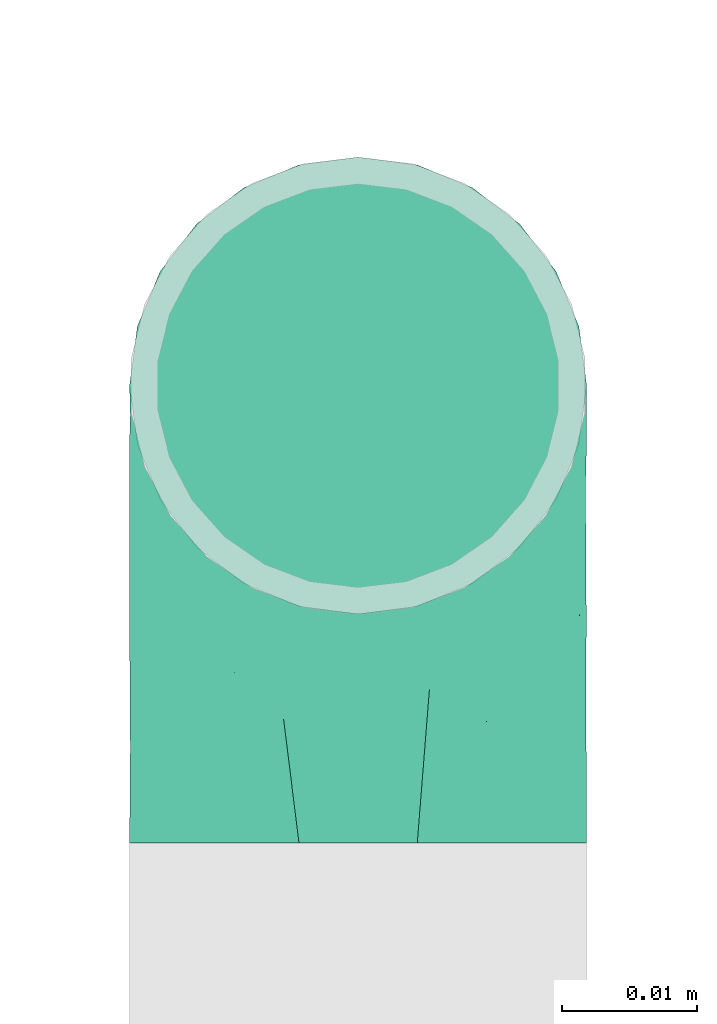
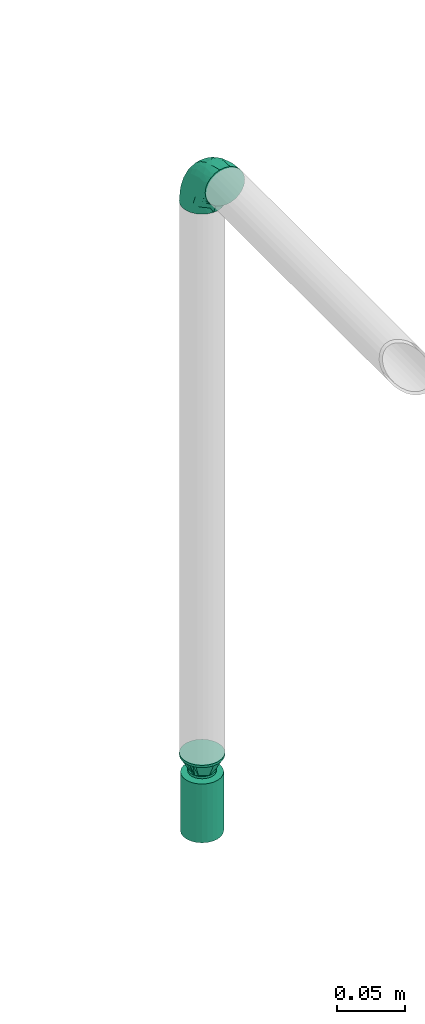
# One storey, part 56 of 95: 2 flow fittings, 1 flow terminal.
"""IFC2X3 building model written with IfcOpenShell, lengths in millimetres."""

from ifc_helpers import new_model, entity, si_unit, converted_unit, derived_unit, direction, frame, origin_with_axes, place, context, subcontext, project, spatial, open_shell, surface_model, source, transform, mapped, type_object, element, save


model = new_model("IFC2X3")

# Units and contexts
model_context = context("Model", 3, precision=0.01, world=frame((0.0, 4.29681676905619e-09, 0.0)), true_north=direction((4.01073788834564e-13, 1.0)))
plan_context = context("Plan", 3, precision=0.01, world=frame((0.0, 4.29681676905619e-09, 0.0)), true_north=direction((4.01073788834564e-13, 1.0)))
body_context = subcontext(model_context, "Body", "Model", "MODEL_VIEW")
ifc_project = project(units=[converted_unit("PLANEANGLEUNIT", "DEGREE", entity("IfcPositiveLengthMeasure", 0.0174532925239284), si_unit("PLANEANGLEUNIT", "RADIAN"), dimensions=[0, 0, 0, 0, 0, 0, 0]), si_unit("AREAUNIT", "SQUARE_METRE"), si_unit("LENGTHUNIT", "METRE", prefix="MILLI"), si_unit("MASSUNIT", "GRAM", prefix="KILO"), si_unit("POWERUNIT", "WATT"), si_unit("PRESSUREUNIT", "PASCAL"), si_unit("FORCEUNIT", "NEWTON", prefix="KILO"), si_unit("ELECTRICVOLTAGEUNIT", "VOLT"), si_unit("ELECTRICCURRENTUNIT", "AMPERE"), si_unit("THERMODYNAMICTEMPERATUREUNIT", "DEGREE_CELSIUS"), si_unit("TIMEUNIT", "SECOND"), si_unit("VOLUMEUNIT", "CUBIC_METRE"), derived_unit("LINEARVELOCITYUNIT", [(si_unit("LENGTHUNIT", "METRE"), 1), (si_unit("TIMEUNIT", "SECOND"), -1)]), derived_unit("VOLUMETRICFLOWRATEUNIT", [(si_unit("VOLUMEUNIT", "CUBIC_METRE"), 1), (si_unit("TIMEUNIT", "SECOND"), -1)]), derived_unit("THERMALTRANSMITTANCEUNIT", [(si_unit("POWERUNIT", "WATT"), 1), (si_unit("THERMODYNAMICTEMPERATUREUNIT", "KELVIN"), -1), (si_unit("AREAUNIT", "SQUARE_METRE"), -1)]), derived_unit("SOUNDPRESSUREUNIT", [(si_unit("PRESSUREUNIT", "PASCAL"), 1)])], contexts=[model_context, plan_context])

# Site, building, storey
site_placement = place(None, frame((0.0, -4.29681676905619e-09, 0.0), z_axis=(0.0, 0.0, 1.0), x_axis=(1.0, 0.0, 0.0)))
site = spatial("IfcSite", under=ifc_project, at=site_placement, CompositionType="ELEMENT")
building_placement = place(site_placement, frame((0.0, 4.29681676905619e-09, 0.0), z_axis=(0.0, 0.0, 1.0), x_axis=(1.0, 0.0, 0.0)))
building = spatial("IfcBuilding", under=site, at=building_placement, Name="mc-building", CompositionType="ELEMENT")
storey_placement = place(building_placement, frame((0.0, 0.0, 210900.0), z_axis=(0.0, 0.0, 1.0), x_axis=(1.0, 0.0, 0.0)))
storey = spatial("IfcBuildingStorey", under=building, at=storey_placement, Name="Nivå F", CompositionType="ELEMENT", Elevation=210900.0)

# Flow fittings
pipe_fitting_type_1 = type_object("IfcPipeFittingType", Name="magi_pipe_fe_reducer_centric_short_NOR", PredefinedType="TRANSITION")
shared_shape_1 = source(origin_with_axes(), body_context, "Body", "SurfaceModel", [
    surface_model("IfcShellBasedSurfaceModel", [(-2.0, -7.56604, -7.56604), (-2.0, -10.33541, -2.76936), (-2.0, -5.35, -9.26647), (-2.0, 5.35, -9.26647), (-2.0, 10.33541, -2.76936), (-2.0, 7.56604, -7.56604), (12.4, 11.9501, 11.9501), (12.4, 0.0, 16.9), (12.4, 11.9501, -11.9501), (12.4, 16.9, 0.0), (0.0, -10.7, 0.0), (0.0, -5.35, 9.26647), (0.0, -5.35, -9.26647), (0.0, 10.7, 0.0), (12.4, 15.66253, -2.98753), (12.4, 8.96258, -13.18758), (0.0, 6.6875, -6.94985), (12.4, -15.66253, -2.98753), (12.4, -16.9, 0.0), (12.4, 5.97505, -14.42505), (0.0, 5.35, -9.26647), (12.4, 14.42505, -5.97505), (0.0, 8.025, -4.63324), (0.0, 9.3625, -2.31662), (0.0, -9.3625, -2.31662), (0.0, -8.025, -4.63324), (12.4, -14.42505, -5.97505), (12.4, 13.18758, -8.96258), (12.4, -13.18758, -8.96258), (12.4, -11.9501, -11.9501), (0.0, -6.6875, -6.94985), (12.4, -8.96258, -13.18758), (12.4, -5.97505, -14.42505), (12.4, -15.66253, 2.98753), (12.4, -8.96258, 13.18758), (0.0, -6.6875, 6.94985), (12.4, -11.9501, 11.9501), (12.4, 15.66253, 2.98753), (12.4, -5.97505, 14.42505), (12.4, -14.42505, 5.97505), (0.0, -8.025, 4.63324), (0.0, -9.3625, 2.31662), (0.0, 9.3625, 2.31662), (0.0, 8.025, 4.63324), (12.4, 14.42505, 5.97505), (12.4, -13.18758, 8.96258), (12.4, 13.18758, 8.96258), (0.0, 6.6875, 6.94985), (12.4, 8.96258, 13.18758), (0.0, 5.35, 9.26647), (12.4, 5.97505, 14.42505), (14.4, 4.37404, -16.32415), (14.4, 8.45, -14.63583), (14.4, 11.9501, -11.9501), (14.4, -8.45, -14.63583), (14.4, 16.32415, -4.37404), (14.4, 16.32415, 4.37404), (14.4, 14.63583, -8.45), (14.4, 0.0, -16.9), (14.4, -4.37404, -16.32415), (14.4, -11.9501, -11.9501), (14.4, -16.32415, -4.37404), (14.4, -14.63583, -8.45), (14.4, -16.32415, 4.37404), (14.4, 16.9, 0.0), (14.4, 14.63583, 8.45), (14.4, 11.9501, 11.9501), (14.4, 4.37404, 16.32415), (14.4, 8.45, 14.63583), (14.4, 0.0, 16.9), (14.4, -14.63583, 8.45), (14.4, -16.9, 0.0), (14.4, -8.45, 14.63583), (14.4, -11.9501, 11.9501), (14.4, -4.37404, 16.32415), (12.4, 4.37404, 16.32415), (12.4, -14.63583, 8.45), (12.4, 16.32415, 4.37404), (12.4, 8.45, 14.63583), (12.4, 14.63583, 8.45), (12.4, -8.45, 14.63583), (12.4, -4.37404, 16.32415), (12.4, -16.32415, 4.37404), (12.4, -16.32415, -4.37404), (12.4, -8.45, -14.63583), (12.4, 16.32415, -4.37404), (12.4, 14.63583, -8.45), (12.4, 8.45, -14.63583), (12.4, 4.37404, -16.32415), (12.4, 0.0, -16.9), (12.4, -14.63583, -8.45), (12.4, -4.37404, -16.32415), (-2.0, 2.76936, 10.33541), (-2.0, 0.0, 10.7), (-2.0, 5.35, 9.26647), (-2.0, 7.56604, 7.56604), (-2.0, 9.26647, 5.35), (-2.0, 10.33541, 2.76936), (-2.0, -10.33541, 2.76936), (-2.0, -2.76936, 10.33541), (-2.0, -7.56604, 7.56604), (-2.0, -5.35, 9.26647), (-2.0, -9.26647, 5.35), (-2.0, -10.7, 0.0), (-2.0, 9.26647, -5.35), (-2.0, 2.76936, -10.33541), (-2.0, -9.26647, -5.35), (-2.0, 0.0, -10.7), (-2.0, -2.76936, -10.33541), (-2.0, 10.7, 0.0), (0.0, 0.0, -10.7), (0.0, 2.76936, -10.33541), (0.0, 10.33541, -2.76936), (0.0, 7.56604, -7.56604), (0.0, -10.33541, -2.76936), (0.0, 9.26647, -5.35), (0.0, 0.0, 10.7), (0.0, -2.76936, -10.33541), (0.0, -7.56604, -7.56604), (0.0, -9.26647, -5.35), (0.0, 10.33541, 2.76936), (0.0, 9.26647, 5.35), (0.0, 7.56604, 7.56604), (0.0, 2.76936, 10.33541), (0.0, -7.56604, 7.56604), (0.0, -10.33541, 2.76936), (0.0, -9.26647, 5.35), (0.0, -2.76936, 10.33541), (0.0, 2.675, -9.26647), (0.0, -2.675, -9.26647), (12.4, 2.98753, -15.66253), (0.0, 0.0, -9.26647), (12.4, -2.98753, -15.66253), (0.0, -2.675, 9.26647), (0.0, 2.675, 9.26647), (12.4, -2.98753, 15.66253), (0.0, 0.0, 9.26647), (12.4, 2.98753, 15.66253)], [open_shell([[[0, 1, 2]], [[3, 4, 5]], [[6, 7, 8]], [[8, 9, 6]], [[10, 11, 12]], [[13, 9, 14]], [[15, 16, 8]], [[17, 18, 10]], [[15, 19, 20]], [[21, 22, 23]], [[24, 25, 26]], [[22, 21, 27]], [[28, 26, 25]], [[29, 30, 31]], [[12, 32, 31]], [[10, 18, 33]], [[34, 35, 36]], [[37, 9, 13]], [[34, 38, 11]], [[39, 40, 41]], [[42, 43, 44]], [[40, 39, 45]], [[46, 44, 43]], [[6, 47, 48]], [[49, 50, 48]], [[51, 52, 53]], [[54, 51, 53]], [[53, 55, 56]], [[55, 53, 57]], [[53, 56, 54]], [[58, 54, 59]], [[58, 51, 54]], [[60, 61, 62]], [[61, 60, 54]], [[54, 63, 61]], [[56, 55, 64]], [[56, 65, 66]], [[56, 66, 67]], [[67, 63, 54]], [[67, 66, 68]], [[63, 67, 69]], [[69, 70, 63]], [[71, 61, 63]], [[70, 72, 73]], [[70, 69, 72]], [[72, 69, 74]], [[54, 56, 67]], [[75, 76, 7]], [[77, 75, 78]], [[6, 79, 77]], [[6, 77, 78]], [[76, 75, 77]], [[80, 76, 36]], [[80, 81, 7]], [[7, 76, 80]], [[82, 76, 77]], [[82, 83, 18]], [[82, 77, 84]], [[77, 85, 8]], [[8, 85, 86]], [[8, 87, 88]], [[84, 77, 8]], [[88, 89, 8]], [[83, 29, 90]], [[29, 83, 84]], [[84, 89, 91]], [[83, 82, 84]], [[8, 89, 84]], [[85, 77, 9]], [[83, 61, 18]], [[90, 62, 83]], [[54, 29, 84]], [[90, 29, 60]], [[59, 84, 91]], [[83, 62, 61]], [[61, 71, 18]], [[59, 54, 84]], [[60, 29, 54]], [[60, 62, 90]], [[58, 59, 91]], [[91, 89, 58]], [[88, 51, 89]], [[87, 52, 88]], [[57, 8, 86]], [[87, 8, 53]], [[55, 86, 85]], [[87, 53, 52]], [[52, 51, 88]], [[64, 55, 85]], [[57, 86, 55]], [[57, 53, 8]], [[9, 64, 85]], [[89, 51, 58]], [[77, 56, 9]], [[79, 65, 77]], [[68, 6, 78]], [[79, 6, 66]], [[67, 78, 75]], [[77, 65, 56]], [[56, 64, 9]], [[67, 68, 78]], [[66, 6, 68]], [[66, 65, 79]], [[69, 67, 75]], [[75, 7, 69]], [[81, 74, 7]], [[80, 72, 81]], [[70, 36, 76]], [[80, 36, 73]], [[63, 76, 82]], [[80, 73, 72]], [[72, 74, 81]], [[71, 63, 82]], [[70, 76, 63]], [[70, 73, 36]], [[18, 71, 82]], [[7, 74, 69]], [[92, 1, 93]], [[94, 1, 92]], [[95, 96, 97]], [[95, 97, 94]], [[98, 93, 1]], [[99, 100, 101]], [[99, 93, 100]], [[100, 98, 102]], [[93, 98, 100]], [[98, 1, 103]], [[94, 97, 1]], [[1, 97, 4]], [[5, 4, 104]], [[4, 3, 1]], [[105, 1, 3]], [[1, 0, 106]], [[2, 107, 108]], [[2, 1, 105]], [[105, 107, 2]], [[4, 97, 109]], [[20, 110, 111]], [[112, 20, 113]], [[114, 20, 112]], [[112, 113, 115]], [[116, 114, 112]], [[110, 12, 117]], [[110, 20, 12]], [[118, 114, 119]], [[114, 118, 12]], [[20, 114, 12]], [[112, 13, 120]], [[120, 121, 122]], [[120, 122, 123]], [[116, 112, 123]], [[123, 122, 49]], [[116, 124, 114]], [[125, 124, 126]], [[10, 114, 125]], [[124, 127, 11]], [[125, 114, 124]], [[127, 124, 116]], [[123, 112, 120]], [[1, 114, 103]], [[106, 119, 1]], [[12, 0, 2]], [[106, 0, 118]], [[117, 2, 108]], [[1, 119, 114]], [[114, 10, 103]], [[117, 12, 2]], [[118, 0, 12]], [[118, 119, 106]], [[110, 117, 108]], [[108, 107, 110]], [[105, 111, 107]], [[3, 20, 105]], [[115, 5, 104]], [[3, 5, 113]], [[112, 104, 4]], [[3, 113, 20]], [[20, 111, 105]], [[13, 112, 4]], [[115, 104, 112]], [[115, 113, 5]], [[109, 13, 4]], [[107, 111, 110]], [[97, 120, 109]], [[96, 121, 97]], [[49, 95, 94]], [[96, 95, 122]], [[123, 94, 92]], [[97, 121, 120]], [[120, 13, 109]], [[123, 49, 94]], [[122, 95, 49]], [[122, 121, 96]], [[116, 123, 92]], [[92, 93, 116]], [[99, 127, 93]], [[101, 11, 99]], [[126, 100, 102]], [[101, 100, 124]], [[125, 102, 98]], [[101, 124, 11]], [[11, 127, 99]], [[10, 125, 98]], [[126, 102, 125]], [[126, 124, 100]], [[103, 10, 98]], [[93, 127, 116]], [[18, 7, 36]], [[18, 29, 8]], [[89, 8, 29]], [[18, 8, 7]], [[13, 11, 49]], [[13, 20, 12]], [[13, 12, 11]], [[24, 26, 17]], [[10, 24, 17]], [[16, 15, 20]], [[30, 12, 31]], [[23, 14, 21]], [[19, 128, 20]], [[27, 8, 16]], [[32, 12, 129]], [[30, 28, 25]], [[130, 131, 128]], [[129, 132, 32]], [[16, 22, 27]], [[13, 14, 23]], [[128, 19, 130]], [[130, 89, 131]], [[131, 132, 129]], [[89, 132, 131]], [[28, 30, 29]], [[42, 44, 37]], [[13, 42, 37]], [[35, 34, 11]], [[47, 49, 48]], [[41, 33, 39]], [[38, 133, 11]], [[45, 36, 35]], [[50, 49, 134]], [[47, 46, 43]], [[135, 136, 133]], [[134, 137, 50]], [[35, 40, 45]], [[10, 33, 41]], [[133, 38, 135]], [[135, 7, 136]], [[136, 137, 134]], [[7, 137, 136]], [[46, 47, 6]]])]),
])
flow_fitting_1_placement = place(storey_placement, frame((533498.68266, 447207.85, 3762.948), z_axis=(-1.0, 0.0, 0.0), x_axis=(0.0, 0.0, 1.0)))
element("IfcFlowFitting", 1, at=flow_fitting_1_placement, inside=storey, type_object=pipe_fitting_type_1, Name="magi_pipe_fe_reducer_centric_short_NOR", context=body_context, shape_type="MappedRepresentation", body=[
    mapped(shared_shape_1, transform((0.0, 0.0, 0.0), scale=1.0)),
])
pipe_fitting_type_2 = type_object("IfcPipeFittingType", Name="magi_pipe_fe_elbow_short_001", PredefinedType="BEND")
shared_shape_2 = source(origin_with_axes(), body_context, "Body", "SurfaceModel", [
    surface_model("IfcShellBasedSurfaceModel", [(-33.8, 8.45, -14.63583), (-33.8, 4.37404, -16.32415), (-33.8, 11.9501, -11.9501), (-33.8, -11.9501, -11.9501), (-33.8, -14.63583, -8.45), (-33.8, -8.45, -14.63583), (-33.8, 0.0, -16.9), (-33.8, -4.37404, -16.32415), (-33.8, -4.37404, 16.32415), (-33.8, 0.0, 16.9), (-33.8, -8.45, 14.63583), (-33.8, 16.32415, -4.37404), (-33.8, 14.63583, -8.45), (-33.8, -16.32415, -4.37404), (-33.8, -16.9, 0.0), (-33.8, -16.32415, 4.37404), (-33.8, 11.9501, 11.9501), (-33.8, 14.63583, 8.45), (-33.8, 16.32415, 4.37404), (-33.8, 4.37404, 16.32415), (-33.8, 8.45, 14.63583), (-33.8, -14.63583, 8.45), (-33.8, -11.9501, 11.9501), (-33.8, 16.9, 0.0), (-11.9501, 33.8, -11.9501), (0.0, 33.8, -16.9), (-4.37404, 33.8, -16.32415), (-8.45, 33.8, -14.63583), (-14.63583, 33.8, -8.45), (-16.32415, 33.8, -4.37404), (14.63583, 33.8, -8.45), (8.45, 33.8, 14.63583), (16.32415, 33.8, -4.37404), (8.45, 33.8, -14.63583), (11.9501, 33.8, -11.9501), (4.37404, 33.8, -16.32415), (16.32415, 33.8, 4.37404), (16.9, 33.8, 0.0), (-11.9501, 33.8, 11.9501), (-16.32415, 33.8, 4.37404), (-14.63583, 33.8, 8.45), (-8.45, 33.8, 14.63583), (-4.37404, 33.8, 16.32415), (11.9501, 33.8, 11.9501), (14.63583, 33.8, 8.45), (0.0, 33.8, 16.9), (4.37404, 33.8, 16.32415), (-16.9, 33.8, 0.0), (-24.79389, -13.12945, 9.48721), (-22.19287, -9.75018, 12.59315), (-24.09897, -14.97035, 0.0), (-14.93934, -10.76256, 8.5297), (-22.46095, -14.75051, 5.27077), (14.75051, 22.46094, 5.27077), (11.9251, 13.23888, 4.33236), (13.04069, 14.39795, 0.0), (7.71387, 13.68847, 11.55891), (9.75018, 22.19287, 12.59315), (4.10169, 13.0571, 14.04018), (-24.84007, -6.39063, 15.2048), (-25.81779, -2.23879, 16.61097), (-23.66549, 2.59054, 16.87119), (-26.50418, 14.06512, 11.08152), (-24.21253, 17.66365, 7.72657), (-29.58514, 15.86957, 7.00283), (-6.17382, -7.5455, 0.0), (-13.23888, -11.9251, 4.33236), (-14.39795, -13.04069, 0.0), (-17.81434, 18.87373, 11.97104), (-6.30846, 29.15138, 15.82987), (-2.31622, 25.28002, 16.85849), (-29.23923, 10.23435, 13.77053), (-1.45439, -2.85688, 7.61475), (-0.28326, 0.34872, 10.09509), (-5.74484, -4.04709, 10.4122), (-4.41137, 11.31918, 16.59407), (-8.39727, 3.10034, 15.7812), (-1.72649, 9.1306, 15.53089), (-17.39909, 24.75344, 7.64977), (-26.19233, 20.0512, 0.0), (-28.14518, 17.29657, 4.25857), (-26.05147, 6.6281, 15.96447), (-5.87354, 16.61944, 16.86968), (-12.51807, 12.51807, 16.48937), (-10.06312, 7.38516, 16.81295), (-3.01882, 3.01882, 13.81718), (-13.0571, -4.10169, 14.04018), (-16.82553, -0.15166, 16.38038), (10.76256, 14.93934, 8.5297), (13.12945, 24.79389, 9.48721), (6.39063, 24.84007, 15.2048), (2.23879, 25.81779, 16.61097), (-13.68847, -7.71387, 11.55891), (14.97035, 24.09897, 0.0), (-7.30894, 22.89991, 16.09489), (-10.67958, 26.17414, 14.008), (-12.78295, 18.26924, 15.06066), (-13.88562, 22.45231, 12.93244), (-18.04944, 15.16501, 14.04434), (-23.11658, 20.08178, 4.02986), (-21.84989, 21.84989, 0.0), (-18.55817, 25.48277, 3.93065), (-13.95142, 26.94732, 11.03289), (-18.57098, 7.23906, 16.59756), (-16.58335, 4.14122, 16.89279), (-17.96666, 11.46709, 15.63151), (-9.84453, 17.54304, 16.18938), (0.15166, 16.82553, 16.38038), (-23.27207, 11.47201, 14.23154), (3.84842, 5.86994, 10.70473), (-8.0212, -7.54413, 7.93275), (1.00345, -2.19508, 4.57414), (5.13203, 3.01004, 5.90201), (5.24161, 1.7543, 2.53265), (8.70457, 7.04947, 3.99182), (-20.0512, 26.19233, 0.0), (8.4852, 8.76699, 7.09296), (-4.55488, -6.72064, 4.90681), (2.05031, -2.05031, 0.0), (7.5455, 6.17382, 0.0), (-26.75399, 2.1369, -16.845), (-14.61995, 24.73803, -11.27736), (-28.45274, -13.45335, -9.81895), (-26.00469, 6.63555, -15.96645), (-23.06726, 20.04573, -4.26202), (-13.80647, -4.26506, -14.17873), (-14.67501, -0.21081, -16.07388), (-6.7902, -0.2828, -13.8478), (-24.53586, 11.08096, -14.13417), (-26.72048, 14.00837, -11.05776), (10.0967, 24.44989, -12.75976), (5.83237, 21.40218, -15.03047), (6.66249, 28.54238, -15.38093), (-20.38182, 15.48705, -12.74596), (12.53268, 21.23441, -9.15363), (12.54494, 15.67504, -5.54878), (9.7522, 12.89279, -8.66343), (-15.65186, 19.64213, -13.01327), (-12.03528, 20.66498, -14.67665), (-15.61907, 15.61906, -14.83879), (-25.56551, -15.26206, 0.0), (-24.65452, -15.12934, -5.50955), (13.45335, 28.45274, -9.81895), (15.12934, 24.65452, -5.50955), (-7.35442, -8.31014, -5.65563), (-15.67504, -12.54494, -5.54878), (-24.44989, -10.0967, -12.75976), (0.16522, 0.41303, -9.71728), (-5.70658, -5.33066, -8.89288), (-5.13869, -2.37198, -11.53565), (-21.23441, -12.53268, -9.15363), (0.71146, 7.93863, -14.09382), (0.21081, 14.67501, -16.07388), (3.49291, 14.42772, -14.76381), (-24.89911, -2.13088, -16.591), (-28.54238, -6.66249, -15.38093), (-18.44386, -7.71663, -13.26957), (2.13088, 24.89911, -16.591), (-28.64342, 17.44413, -2.89318), (1.70017, -1.28722, -5.09504), (-16.57067, 26.81947, -7.36596), (-17.69055, 27.4263, -3.76405), (-12.89279, -9.7522, -8.66343), (-5.96611, 5.96611, -15.95814), (-20.53709, 20.09345, -8.28985), (-2.1369, 26.75399, -16.845), (-6.89872, 24.58781, -16.02578), (-10.60739, 26.53157, -13.98044), (-21.40218, -5.83237, -15.03047), (2.93192, 5.89627, -11.55917), (6.89393, 12.61842, -11.82233), (5.58056, 5.95325, -8.79455), (-3.99512, 18.61798, -16.89635), (8.31014, 7.35442, -5.65563), (-9.1383, 9.86148, -16.89041), (-9.99983, 16.02119, -16.39699), (-16.68576, 9.78031, -16.34199), (-27.01915, 16.61158, -7.12979), (15.26206, 25.56551, 0.0), (-18.61798, 3.99512, -16.89635), (-19.37495, 27.82495, 0.0), (-12.61842, -6.89393, -11.82233), (-18.84705, 19.14018, -10.96545)], [open_shell([[[0, 1, 2]], [[3, 4, 5]], [[6, 7, 5]], [[8, 9, 10]], [[1, 6, 2]], [[11, 12, 2]], [[4, 2, 6]], [[2, 13, 10]], [[5, 4, 6]], [[2, 4, 13]], [[14, 15, 13]], [[11, 2, 16]], [[11, 17, 18]], [[11, 16, 17]], [[19, 20, 16]], [[16, 2, 10]], [[19, 16, 10]], [[21, 22, 15]], [[22, 13, 15]], [[22, 10, 13]], [[10, 9, 19]], [[11, 18, 23]], [[24, 25, 26]], [[24, 26, 27]], [[24, 28, 29]], [[25, 24, 30]], [[31, 32, 24]], [[33, 30, 34]], [[33, 35, 25]], [[25, 30, 33]], [[32, 30, 24]], [[32, 36, 37]], [[38, 24, 29]], [[39, 40, 29]], [[40, 38, 29]], [[38, 41, 42]], [[38, 31, 24]], [[31, 38, 42]], [[36, 43, 44]], [[36, 32, 43]], [[31, 45, 46]], [[32, 31, 43]], [[42, 45, 31]], [[39, 29, 47]], [[22, 48, 49]], [[15, 14, 50]], [[51, 48, 52]], [[53, 54, 55]], [[48, 22, 21]], [[15, 52, 21]], [[56, 57, 58]], [[49, 10, 22]], [[49, 59, 10]], [[9, 60, 61]], [[62, 63, 64]], [[65, 66, 67]], [[57, 43, 31]], [[62, 68, 63]], [[42, 69, 70]], [[20, 71, 16]], [[8, 60, 9]], [[72, 73, 74]], [[75, 76, 77]], [[16, 62, 17]], [[40, 39, 78]], [[79, 23, 80]], [[64, 18, 17]], [[9, 61, 19]], [[19, 81, 20]], [[82, 83, 84]], [[74, 85, 86]], [[59, 86, 87]], [[88, 89, 57]], [[90, 31, 46]], [[44, 53, 36]], [[46, 45, 91]], [[54, 53, 88]], [[44, 89, 53]], [[92, 86, 49]], [[89, 44, 43]], [[10, 59, 8]], [[53, 55, 93]], [[93, 36, 53]], [[66, 52, 67]], [[94, 82, 70]], [[95, 96, 94]], [[97, 98, 96]], [[79, 99, 100]], [[41, 38, 95]], [[101, 100, 99]], [[68, 78, 63]], [[42, 41, 69]], [[23, 18, 80]], [[95, 94, 69]], [[78, 101, 99]], [[38, 102, 95]], [[70, 45, 42]], [[97, 95, 102]], [[15, 50, 52]], [[90, 57, 31]], [[57, 90, 58]], [[81, 19, 61]], [[103, 104, 84]], [[105, 81, 103]], [[38, 40, 102]], [[106, 96, 83]], [[94, 106, 82]], [[91, 70, 107]], [[71, 62, 16]], [[62, 108, 98]], [[86, 59, 49]], [[67, 52, 50]], [[60, 59, 87]], [[92, 49, 51]], [[86, 85, 76]], [[91, 90, 46]], [[37, 36, 93]], [[107, 77, 58]], [[107, 58, 90]], [[58, 85, 109]], [[110, 74, 92]], [[72, 74, 110]], [[66, 51, 52]], [[72, 111, 112]], [[113, 114, 112]], [[56, 88, 57]], [[52, 48, 21]], [[49, 48, 51]], [[57, 89, 43]], [[53, 89, 88]], [[103, 81, 61]], [[71, 81, 108]], [[18, 64, 80]], [[63, 78, 99]], [[47, 115, 101]], [[101, 115, 100]], [[40, 78, 102]], [[68, 102, 78]], [[97, 96, 95]], [[105, 98, 108]], [[103, 84, 83]], [[107, 70, 82]], [[76, 84, 87]], [[82, 84, 75]], [[70, 91, 45]], [[90, 91, 107]], [[59, 60, 8]], [[61, 60, 87]], [[73, 85, 74]], [[109, 112, 116]], [[103, 61, 104]], [[105, 103, 83]], [[96, 105, 83]], [[81, 105, 108]], [[96, 98, 105]], [[62, 98, 68]], [[61, 87, 104]], [[87, 84, 104]], [[86, 76, 87]], [[77, 76, 85]], [[58, 77, 85]], [[75, 77, 107]], [[82, 75, 107]], [[76, 75, 84]], [[81, 71, 20]], [[62, 71, 108]], [[95, 69, 41]], [[70, 69, 94]], [[62, 64, 17]], [[80, 63, 99]], [[63, 80, 64]], [[80, 99, 79]], [[66, 65, 117]], [[110, 66, 117]], [[112, 114, 116]], [[118, 117, 65]], [[110, 92, 51]], [[112, 111, 113]], [[119, 55, 54]], [[74, 86, 92]], [[58, 109, 56]], [[116, 56, 109]], [[66, 110, 51]], [[72, 110, 117]], [[111, 72, 117]], [[73, 112, 109]], [[117, 118, 111]], [[113, 111, 118]], [[118, 119, 113]], [[114, 119, 54]], [[119, 114, 113]], [[116, 54, 88]], [[54, 116, 114]], [[116, 88, 56]], [[112, 73, 72]], [[85, 73, 109]], [[78, 39, 101]], [[47, 101, 39]], [[102, 68, 97]], [[97, 68, 98]], [[82, 106, 83]], [[94, 96, 106]], [[1, 120, 6]], [[28, 24, 121]], [[3, 122, 4]], [[0, 123, 1]], [[100, 124, 79]], [[125, 126, 127]], [[128, 2, 129]], [[130, 131, 132]], [[128, 129, 133]], [[134, 135, 136]], [[137, 138, 139]], [[128, 0, 2]], [[67, 140, 141]], [[134, 142, 143]], [[141, 13, 4]], [[144, 65, 145]], [[146, 3, 5]], [[147, 148, 149]], [[145, 141, 150]], [[151, 152, 153]], [[154, 7, 6]], [[5, 155, 146]], [[150, 146, 156]], [[155, 5, 7]], [[143, 135, 134]], [[35, 157, 25]], [[23, 79, 158]], [[148, 159, 144]], [[160, 161, 29]], [[145, 162, 144]], [[163, 152, 151]], [[29, 28, 160]], [[121, 164, 160]], [[33, 34, 130]], [[25, 165, 26]], [[26, 165, 166]], [[142, 34, 30]], [[24, 27, 167]], [[124, 161, 164]], [[157, 35, 132]], [[155, 154, 168]], [[123, 0, 128]], [[169, 170, 171]], [[172, 157, 152]], [[26, 166, 27]], [[132, 35, 33]], [[142, 130, 34]], [[168, 154, 126]], [[136, 135, 173]], [[133, 137, 139]], [[2, 12, 129]], [[170, 131, 130]], [[30, 32, 143]], [[172, 174, 175]], [[176, 123, 128]], [[158, 177, 11]], [[135, 55, 119]], [[167, 27, 166]], [[175, 166, 172]], [[137, 167, 138]], [[122, 141, 4]], [[140, 14, 13]], [[32, 37, 178]], [[170, 130, 134]], [[152, 157, 131]], [[165, 157, 172]], [[153, 170, 151]], [[152, 163, 174]], [[168, 125, 156]], [[122, 146, 150]], [[120, 154, 6]], [[179, 174, 126]], [[179, 126, 154]], [[126, 163, 127]], [[162, 145, 150]], [[140, 13, 141]], [[32, 178, 143]], [[55, 143, 178]], [[177, 129, 12]], [[128, 133, 139]], [[176, 128, 139]], [[120, 123, 179]], [[121, 160, 28]], [[161, 100, 180]], [[166, 175, 138]], [[121, 24, 167]], [[161, 47, 29]], [[79, 124, 158]], [[124, 164, 177]], [[161, 124, 100]], [[136, 171, 170]], [[127, 163, 151]], [[147, 171, 159]], [[148, 144, 162]], [[127, 151, 169]], [[127, 181, 125]], [[129, 177, 164]], [[12, 11, 177]], [[159, 65, 144]], [[67, 141, 145]], [[143, 55, 135]], [[135, 119, 173]], [[123, 120, 1]], [[154, 120, 179]], [[157, 165, 25]], [[166, 165, 172]], [[172, 152, 174]], [[176, 139, 175]], [[126, 174, 163]], [[176, 174, 179]], [[174, 176, 175]], [[123, 176, 179]], [[150, 181, 162]], [[127, 149, 181]], [[181, 148, 162]], [[159, 148, 147]], [[171, 136, 173]], [[170, 134, 136]], [[159, 171, 173]], [[171, 147, 169]], [[169, 147, 149]], [[151, 170, 169]], [[164, 182, 129]], [[182, 121, 137]], [[181, 149, 148]], [[169, 149, 127]], [[182, 137, 133]], [[167, 137, 121]], [[166, 138, 167]], [[175, 139, 138]], [[129, 182, 133]], [[121, 182, 164]], [[161, 160, 164]], [[47, 161, 180]], [[177, 158, 124]], [[23, 158, 11]], [[130, 132, 33]], [[157, 132, 131]], [[143, 142, 30]], [[130, 142, 134]], [[154, 155, 7]], [[146, 155, 168]], [[146, 122, 3]], [[141, 122, 150]], [[152, 131, 153]], [[159, 119, 118]], [[67, 145, 65]], [[170, 153, 131]], [[119, 159, 173]], [[159, 118, 65]], [[156, 125, 181]], [[126, 125, 168]], [[150, 156, 181]], [[168, 156, 146]]])]),
])
flow_fitting_2_placement = place(storey_placement, frame((533498.68266, 447207.85, 4308.26618000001), z_axis=(1.0, 0.0, 0.0), x_axis=(0.0, 0.0, 1.0)))
element("IfcFlowFitting", 2, at=flow_fitting_2_placement, inside=storey, type_object=pipe_fitting_type_2, Name="magi_pipe_fe_elbow_short_001", context=body_context, shape_type="MappedRepresentation", body=[
    mapped(shared_shape_2, transform((0.0, 0.0, 0.0), scale=1.0)),
])

# Flow terminal
fire_suppression_terminal_type = type_object("IfcFireSuppressionTerminalType", Name="SP-15-K80-68DGR-STD", PredefinedType="NOTDEFINED")
shared_shape_3 = source(origin_with_axes(), body_context, "Body", "SurfaceModel", [
    surface_model("IfcShellBasedSurfaceModel", [(15.45481, -4.1411, 53.0), (13.85641, -8.0, 53.0), (15.45481, -4.1411, 0.0), (16.0, 0.0, 0.0), (16.0, 0.0, 53.0), (15.45481, 4.1411, 0.0), (13.85641, 8.0, 53.0), (15.45481, 4.1411, 53.0), (11.31371, 11.31371, 53.0), (8.0, 13.85641, 53.0), (4.1411, 15.45481, 53.0), (-8.0, 13.85641, 53.0), (-4.1411, 15.45481, 53.0), (0.0, 16.0, 53.0), (-11.31371, 11.31371, 53.0), (-13.85641, 8.0, 53.0), (-15.45481, 4.1411, 53.0), (11.31371, -11.31371, 53.0), (-16.0, 0.0, 53.0), (0.0, -16.0, 53.0), (4.1411, -15.45481, 53.0), (8.0, -13.85641, 53.0), (-13.85641, -8.0, 53.0), (-11.31371, -11.31371, 53.0), (-15.45481, -4.1411, 53.0), (-8.0, -13.85641, 53.0), (-4.1411, -15.45481, 53.0), (8.0, -13.85641, 0.0), (4.1411, -15.45481, 0.0), (0.0, -16.0, 0.0), (-4.1411, -15.45481, 0.0), (13.85641, -8.0, 0.0), (11.31371, -11.31371, 0.0), (-16.0, 0.0, 0.0), (-8.0, -13.85641, 0.0), (-11.31371, -11.31371, 0.0), (-13.85641, -8.0, 0.0), (-15.45481, -4.1411, 0.0), (4.1411, 15.45481, 0.0), (13.85641, 8.0, 0.0), (8.0, 13.85641, 0.0), (11.31371, 11.31371, 0.0), (-15.45481, 4.1411, 0.0), (-11.31371, 11.31371, 0.0), (-8.0, 13.85641, 0.0), (-13.85641, 8.0, 0.0), (-4.1411, 15.45481, 0.0), (0.0, 16.0, 0.0)], [open_shell([[[0, 1, 2]], [[3, 4, 0]], [[5, 6, 7]], [[7, 4, 3]], [[8, 9, 10]], [[8, 10, 11]], [[8, 4, 7]], [[6, 8, 7]], [[4, 8, 11]], [[12, 11, 13]], [[11, 10, 13]], [[14, 15, 11]], [[16, 11, 15]], [[11, 16, 4]], [[16, 0, 4]], [[17, 1, 0]], [[18, 17, 16]], [[19, 20, 21]], [[18, 21, 17]], [[21, 18, 19]], [[22, 23, 24]], [[18, 24, 23]], [[25, 26, 23]], [[18, 23, 26]], [[26, 19, 18]], [[0, 16, 17]], [[27, 28, 29]], [[27, 29, 30]], [[2, 31, 32]], [[32, 27, 33]], [[2, 32, 33]], [[34, 35, 30]], [[36, 30, 35]], [[36, 37, 30]], [[37, 27, 30]], [[37, 33, 27]], [[33, 5, 2]], [[38, 5, 33]], [[39, 5, 38]], [[38, 40, 41]], [[39, 38, 41]], [[33, 42, 38]], [[43, 44, 45]], [[42, 45, 44]], [[46, 47, 44]], [[38, 42, 44]], [[44, 47, 38]], [[5, 3, 2]], [[45, 42, 16]], [[45, 15, 43]], [[46, 44, 11]], [[14, 44, 43]], [[47, 46, 12]], [[33, 18, 42]], [[18, 16, 42]], [[16, 15, 45]], [[15, 14, 43]], [[44, 14, 11]], [[11, 12, 46]], [[12, 13, 47]], [[40, 38, 10]], [[40, 9, 41]], [[5, 39, 6]], [[8, 39, 41]], [[3, 5, 7]], [[13, 10, 38]], [[10, 9, 40]], [[9, 8, 41]], [[8, 6, 39]], [[47, 13, 38]], [[2, 3, 0]], [[31, 2, 1]], [[28, 27, 21]], [[29, 28, 20]], [[1, 17, 32]], [[17, 27, 32]], [[21, 27, 17]], [[21, 20, 28]], [[31, 1, 32]], [[20, 19, 29]], [[34, 30, 26]], [[34, 25, 35]], [[37, 36, 22]], [[23, 36, 35]], [[33, 37, 24]], [[19, 26, 30]], [[26, 25, 34]], [[25, 23, 35]], [[23, 22, 36]], [[37, 22, 24]], [[24, 18, 33]], [[29, 19, 30]]])]),
])
flow_terminal_placement = place(storey_placement, frame((533498.68266, 447207.85, 3759.89999999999), z_axis=(0.0, 0.0, -1.0), x_axis=(1.0, 0.0, 0.0)))
element("IfcFlowTerminal", 3, at=flow_terminal_placement, inside=storey, type_object=fire_suppression_terminal_type, Name="SP-15-K80-68DGR-STD", context=body_context, shape_type="MappedRepresentation", body=[
    mapped(shared_shape_3, transform((0.0, 0.0, 0.0), scale=1.0)),
])

save(model, "model.ifc")
